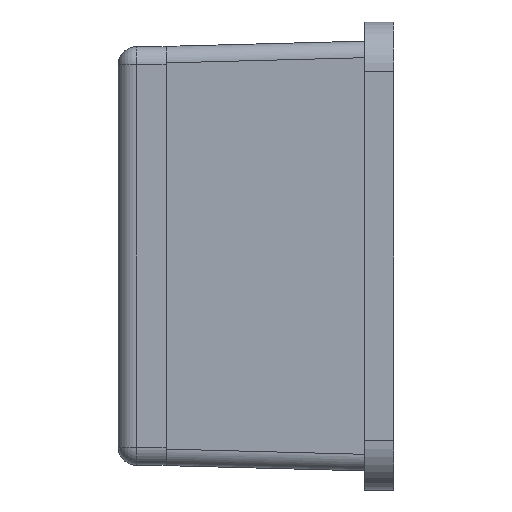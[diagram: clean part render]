
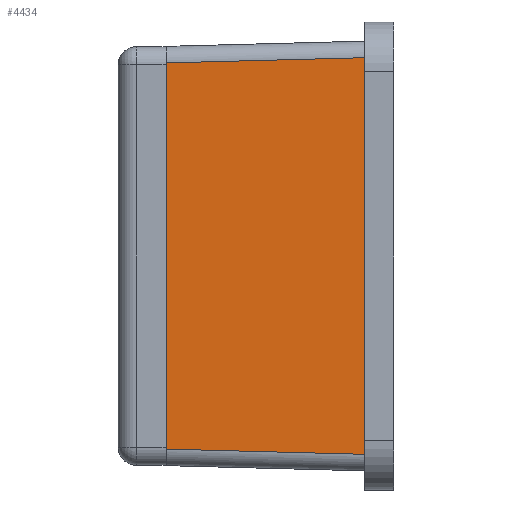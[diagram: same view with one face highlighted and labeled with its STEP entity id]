
A CAD part, left-side view. The second image highlights one B-rep face of the part: STEP entity #4434.
In plain terms, the highlighted planar face has unit normal (-1, 0.026, 0) as drawn and (-1, -0.026, 0) by its records, which use the part's own axes.
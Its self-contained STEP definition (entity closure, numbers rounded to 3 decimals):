
#169 = CARTESIAN_POINT ( 'NONE',  ( -17.686, -12., 11.651 ) ) ;
#635 = EDGE_LOOP ( 'NONE', ( #4517, #1943, #5856, #4553 ) ) ;
#705 = VERTEX_POINT ( 'NONE', #1570 ) ;
#750 = LINE ( 'NONE', #3255, #6099 ) ;
#980 = EDGE_CURVE ( 'NONE', #4634, #705, #2926, .T. ) ;
#1235 = EDGE_CURVE ( 'NONE', #4634, #5140, #2510, .T. ) ;
#1447 = VECTOR ( 'NONE', #4759, 1000. ) ;
#1462 = VERTEX_POINT ( 'NONE', #169 ) ;
#1570 = CARTESIAN_POINT ( 'NONE',  ( -18., 0., 11.965 ) ) ;
#1943 = ORIENTED_EDGE ( 'NONE', *, *, #4140, .T. ) ;
#1976 = EDGE_CURVE ( 'NONE', #5140, #1462, #750, .T. ) ;
#2294 = CARTESIAN_POINT ( 'NONE',  ( -18., 0., -12.965 ) ) ;
#2510 = LINE ( 'NONE', #3800, #3949 ) ;
#2648 = CARTESIAN_POINT ( 'NONE',  ( -17.983, -0.652, 11.948 ) ) ;
#2926 = LINE ( 'NONE', #2294, #5394 ) ;
#3178 = CARTESIAN_POINT ( 'NONE',  ( -18., 0., -11.965 ) ) ;
#3255 = CARTESIAN_POINT ( 'NONE',  ( -17.686, -12., 0. ) ) ;
#3478 = PLANE ( 'NONE',  #4452 ) ;
#3800 = CARTESIAN_POINT ( 'NONE',  ( -18.001, 0.026, -11.966 ) ) ;
#3949 = VECTOR ( 'NONE', #5337, 1000. ) ;
#4140 = EDGE_CURVE ( 'NONE', #1462, #705, #5611, .T. ) ;
#4434 = ADVANCED_FACE ( 'NONE', ( #6252 ), #3478, .T. ) ;
#4452 = AXIS2_PLACEMENT_3D ( 'NONE', #5542, #6063, #4520 ) ;
#4517 = ORIENTED_EDGE ( 'NONE', *, *, #1976, .T. ) ;
#4520 = DIRECTION ( 'NONE',  ( 0.026, -1., 0. ) ) ;
#4553 = ORIENTED_EDGE ( 'NONE', *, *, #1235, .T. ) ;
#4634 = VERTEX_POINT ( 'NONE', #3178 ) ;
#4644 = CARTESIAN_POINT ( 'NONE',  ( -17.686, -12., -11.651 ) ) ;
#4759 = DIRECTION ( 'NONE',  ( -0.026, 0.999, 0.026 ) ) ;
#4963 = DIRECTION ( 'NONE',  ( 0., 0., 1. ) ) ;
#5140 = VERTEX_POINT ( 'NONE', #4644 ) ;
#5242 = DIRECTION ( 'NONE',  ( 0., 0., 1. ) ) ;
#5337 = DIRECTION ( 'NONE',  ( 0.026, -0.999, 0.026 ) ) ;
#5394 = VECTOR ( 'NONE', #4963, 1000. ) ;
#5542 = CARTESIAN_POINT ( 'NONE',  ( -18., 0., -12.965 ) ) ;
#5611 = LINE ( 'NONE', #2648, #1447 ) ;
#5856 = ORIENTED_EDGE ( 'NONE', *, *, #980, .F. ) ;
#6063 = DIRECTION ( 'NONE',  ( -1., -0.026, 0. ) ) ;
#6099 = VECTOR ( 'NONE', #5242, 1000. ) ;
#6252 = FACE_OUTER_BOUND ( 'NONE', #635, .T. ) ;
